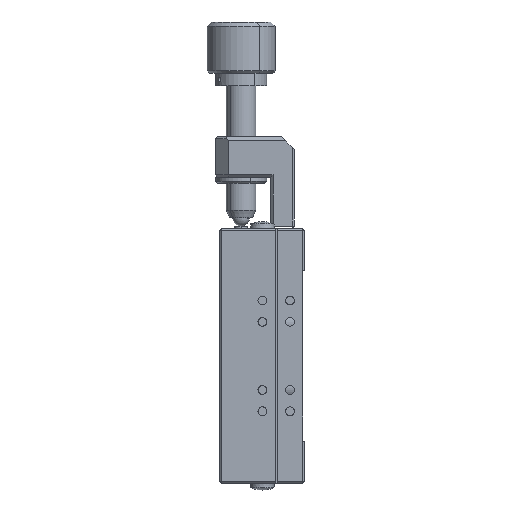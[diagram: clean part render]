
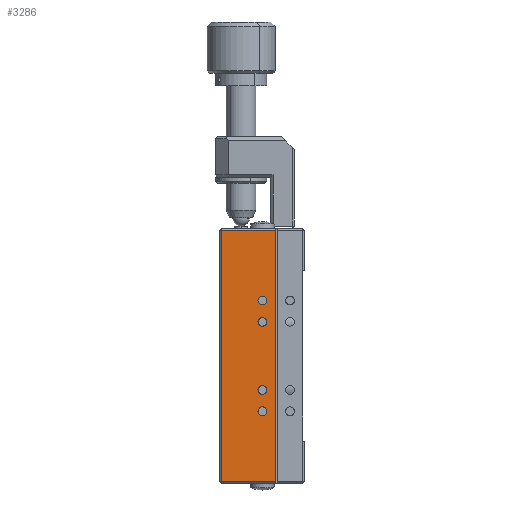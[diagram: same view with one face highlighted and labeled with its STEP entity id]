
A CAD part, left-side view. The second image highlights one B-rep face of the part: STEP entity #3286.
In plain terms, the highlighted planar face has unit normal (-1, 0, 0).
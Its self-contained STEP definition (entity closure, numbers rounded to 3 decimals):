
#73 = VECTOR ( 'NONE', #16072, 1000. ) ;
#121 = EDGE_LOOP ( 'NONE', ( #8781, #4731 ) ) ;
#236 = CIRCLE ( 'NONE', #11821, 1.025 ) ;
#404 = ORIENTED_EDGE ( 'NONE', *, *, #2626, .F. ) ;
#411 = VECTOR ( 'NONE', #8344, 1000. ) ;
#605 = DIRECTION ( 'NONE',  ( -1., 0., 0. ) ) ;
#700 = CARTESIAN_POINT ( 'NONE',  ( -29.33, 10., -6.975 ) ) ;
#923 = EDGE_CURVE ( 'NONE', #4393, #19838, #19212, .T. ) ;
#1093 = EDGE_CURVE ( 'NONE', #19021, #2758, #5870, .T. ) ;
#1118 = CARTESIAN_POINT ( 'NONE',  ( -29.33, 10., -8. ) ) ;
#1285 = FACE_BOUND ( 'NONE', #11673, .T. ) ;
#1416 = LINE ( 'NONE', #10931, #73 ) ;
#2460 = ORIENTED_EDGE ( 'NONE', *, *, #13144, .F. ) ;
#2491 = CARTESIAN_POINT ( 'NONE',  ( -29.33, 10., -14.025 ) ) ;
#2518 = ORIENTED_EDGE ( 'NONE', *, *, #3818, .T. ) ;
#2626 = EDGE_CURVE ( 'NONE', #12608, #18311, #236, .T. ) ;
#2758 = VERTEX_POINT ( 'NONE', #2491 ) ;
#2790 = DIRECTION ( 'NONE',  ( 0., 0., 1. ) ) ;
#3133 = DIRECTION ( 'NONE',  ( -1., 0., 0. ) ) ;
#3286 = ADVANCED_FACE ( 'NONE', ( #19487, #1285, #20827, #21653, #21117 ), #18433, .T. ) ;
#3558 = DIRECTION ( 'NONE',  ( 0., 0., 1. ) ) ;
#3818 = EDGE_CURVE ( 'NONE', #9572, #11125, #6112, .T. ) ;
#3889 = AXIS2_PLACEMENT_3D ( 'NONE', #20448, #8731, #3558 ) ;
#4393 = VERTEX_POINT ( 'NONE', #700 ) ;
#4562 = DIRECTION ( 'NONE',  ( 0., 0., -1. ) ) ;
#4708 = ORIENTED_EDGE ( 'NONE', *, *, #17512, .F. ) ;
#4731 = ORIENTED_EDGE ( 'NONE', *, *, #18824, .F. ) ;
#5750 = DIRECTION ( 'NONE',  ( 0., 0., 1. ) ) ;
#5810 = DIRECTION ( 'NONE',  ( -1., 0., 0. ) ) ;
#5870 = CIRCLE ( 'NONE', #3889, 1.025 ) ;
#6099 = CARTESIAN_POINT ( 'NONE',  ( -29.33, 19.5, 30. ) ) ;
#6112 = LINE ( 'NONE', #6555, #411 ) ;
#6142 = VERTEX_POINT ( 'NONE', #13773 ) ;
#6337 = EDGE_CURVE ( 'NONE', #11125, #8927, #1416, .T. ) ;
#6555 = CARTESIAN_POINT ( 'NONE',  ( -29.33, 6.8, 30. ) ) ;
#6582 = CARTESIAN_POINT ( 'NONE',  ( -29.33, 19.5, 29.5 ) ) ;
#6922 = DIRECTION ( 'NONE',  ( -1., 0., 0. ) ) ;
#7340 = EDGE_CURVE ( 'NONE', #8927, #6142, #12682, .T. ) ;
#7468 = EDGE_LOOP ( 'NONE', ( #4708, #2460 ) ) ;
#7536 = CIRCLE ( 'NONE', #15157, 1.025 ) ;
#7946 = ORIENTED_EDGE ( 'NONE', *, *, #9899, .T. ) ;
#8066 = CARTESIAN_POINT ( 'NONE',  ( -29.33, 6.8, -29.5 ) ) ;
#8344 = DIRECTION ( 'NONE',  ( 0., 0., 1. ) ) ;
#8731 = DIRECTION ( 'NONE',  ( -1., 0., 0. ) ) ;
#8781 = ORIENTED_EDGE ( 'NONE', *, *, #1093, .F. ) ;
#8927 = VERTEX_POINT ( 'NONE', #6582 ) ;
#9429 = VECTOR ( 'NONE', #16646, 1000. ) ;
#9572 = VERTEX_POINT ( 'NONE', #14142 ) ;
#9722 = LINE ( 'NONE', #8066, #9429 ) ;
#9899 = EDGE_CURVE ( 'NONE', #6142, #9572, #9722, .T. ) ;
#10098 = DIRECTION ( 'NONE',  ( 0., 0., 1. ) ) ;
#10105 = DIRECTION ( 'NONE',  ( 0., 0., 1. ) ) ;
#10509 = CARTESIAN_POINT ( 'NONE',  ( -29.33, 6.8, 29.5 ) ) ;
#10601 = DIRECTION ( 'NONE',  ( 0., 0., 1. ) ) ;
#10931 = CARTESIAN_POINT ( 'NONE',  ( -29.33, 6.8, 29.5 ) ) ;
#11125 = VERTEX_POINT ( 'NONE', #10509 ) ;
#11207 = CARTESIAN_POINT ( 'NONE',  ( -29.33, 10., 9.025 ) ) ;
#11456 = VERTEX_POINT ( 'NONE', #21699 ) ;
#11673 = EDGE_LOOP ( 'NONE', ( #19943, #13965 ) ) ;
#11690 = AXIS2_PLACEMENT_3D ( 'NONE', #20322, #16881, #10105 ) ;
#11821 = AXIS2_PLACEMENT_3D ( 'NONE', #17668, #5810, #10601 ) ;
#12142 = CARTESIAN_POINT ( 'NONE',  ( -29.33, 10., 11.975 ) ) ;
#12419 = CIRCLE ( 'NONE', #11690, 1.025 ) ;
#12608 = VERTEX_POINT ( 'NONE', #13730 ) ;
#12682 = LINE ( 'NONE', #6099, #21197 ) ;
#12934 = AXIS2_PLACEMENT_3D ( 'NONE', #22208, #6922, #14835 ) ;
#13144 = EDGE_CURVE ( 'NONE', #11456, #16787, #20217, .T. ) ;
#13185 = DIRECTION ( 'NONE',  ( -1., 0., 0. ) ) ;
#13604 = CARTESIAN_POINT ( 'NONE',  ( -29.33, 6.8, 30. ) ) ;
#13730 = CARTESIAN_POINT ( 'NONE',  ( -29.33, 10., 14.025 ) ) ;
#13773 = CARTESIAN_POINT ( 'NONE',  ( -29.33, 19.5, -29.5 ) ) ;
#13965 = ORIENTED_EDGE ( 'NONE', *, *, #18484, .F. ) ;
#14142 = CARTESIAN_POINT ( 'NONE',  ( -29.33, 6.8, -29.5 ) ) ;
#14835 = DIRECTION ( 'NONE',  ( 0., 0., 1. ) ) ;
#15157 = AXIS2_PLACEMENT_3D ( 'NONE', #21612, #13185, #16290 ) ;
#15351 = EDGE_LOOP ( 'NONE', ( #2518, #18895, #22071, #7946 ) ) ;
#15783 = CARTESIAN_POINT ( 'NONE',  ( -29.33, 10., -9.025 ) ) ;
#15841 = EDGE_CURVE ( 'NONE', #18311, #12608, #20178, .T. ) ;
#16072 = DIRECTION ( 'NONE',  ( 0., 1., 0. ) ) ;
#16290 = DIRECTION ( 'NONE',  ( 0., 0., 1. ) ) ;
#16646 = DIRECTION ( 'NONE',  ( 0., -1., 0. ) ) ;
#16787 = VERTEX_POINT ( 'NONE', #11207 ) ;
#16801 = DIRECTION ( 'NONE',  ( 0., 0., 1. ) ) ;
#16881 = DIRECTION ( 'NONE',  ( -1., 0., 0. ) ) ;
#16997 = EDGE_LOOP ( 'NONE', ( #404, #20040 ) ) ;
#17512 = EDGE_CURVE ( 'NONE', #16787, #11456, #12419, .T. ) ;
#17663 = AXIS2_PLACEMENT_3D ( 'NONE', #13604, #18502, #16801 ) ;
#17668 = CARTESIAN_POINT ( 'NONE',  ( -29.33, 10., 13. ) ) ;
#18311 = VERTEX_POINT ( 'NONE', #12142 ) ;
#18433 = PLANE ( 'NONE',  #17663 ) ;
#18484 = EDGE_CURVE ( 'NONE', #19838, #4393, #7536, .T. ) ;
#18502 = DIRECTION ( 'NONE',  ( -1., 0., 0. ) ) ;
#18824 = EDGE_CURVE ( 'NONE', #2758, #19021, #20340, .T. ) ;
#18895 = ORIENTED_EDGE ( 'NONE', *, *, #6337, .T. ) ;
#19021 = VERTEX_POINT ( 'NONE', #21503 ) ;
#19194 = AXIS2_PLACEMENT_3D ( 'NONE', #20027, #3133, #10098 ) ;
#19212 = CIRCLE ( 'NONE', #19651, 1.025 ) ;
#19487 = FACE_OUTER_BOUND ( 'NONE', #15351, .T. ) ;
#19651 = AXIS2_PLACEMENT_3D ( 'NONE', #1118, #19835, #2790 ) ;
#19835 = DIRECTION ( 'NONE',  ( -1., 0., 0. ) ) ;
#19838 = VERTEX_POINT ( 'NONE', #15783 ) ;
#19943 = ORIENTED_EDGE ( 'NONE', *, *, #923, .F. ) ;
#20027 = CARTESIAN_POINT ( 'NONE',  ( -29.33, 10., 13. ) ) ;
#20040 = ORIENTED_EDGE ( 'NONE', *, *, #15841, .F. ) ;
#20178 = CIRCLE ( 'NONE', #19194, 1.025 ) ;
#20217 = CIRCLE ( 'NONE', #12934, 1.025 ) ;
#20322 = CARTESIAN_POINT ( 'NONE',  ( -29.33, 10., 8. ) ) ;
#20340 = CIRCLE ( 'NONE', #21881, 1.025 ) ;
#20448 = CARTESIAN_POINT ( 'NONE',  ( -29.33, 10., -13. ) ) ;
#20827 = FACE_BOUND ( 'NONE', #121, .T. ) ;
#21117 = FACE_BOUND ( 'NONE', #7468, .T. ) ;
#21150 = CARTESIAN_POINT ( 'NONE',  ( -29.33, 10., -13. ) ) ;
#21197 = VECTOR ( 'NONE', #4562, 1000. ) ;
#21503 = CARTESIAN_POINT ( 'NONE',  ( -29.33, 10., -11.975 ) ) ;
#21612 = CARTESIAN_POINT ( 'NONE',  ( -29.33, 10., -8. ) ) ;
#21653 = FACE_BOUND ( 'NONE', #16997, .T. ) ;
#21699 = CARTESIAN_POINT ( 'NONE',  ( -29.33, 10., 6.975 ) ) ;
#21881 = AXIS2_PLACEMENT_3D ( 'NONE', #21150, #605, #5750 ) ;
#22071 = ORIENTED_EDGE ( 'NONE', *, *, #7340, .T. ) ;
#22208 = CARTESIAN_POINT ( 'NONE',  ( -29.33, 10., 8. ) ) ;
